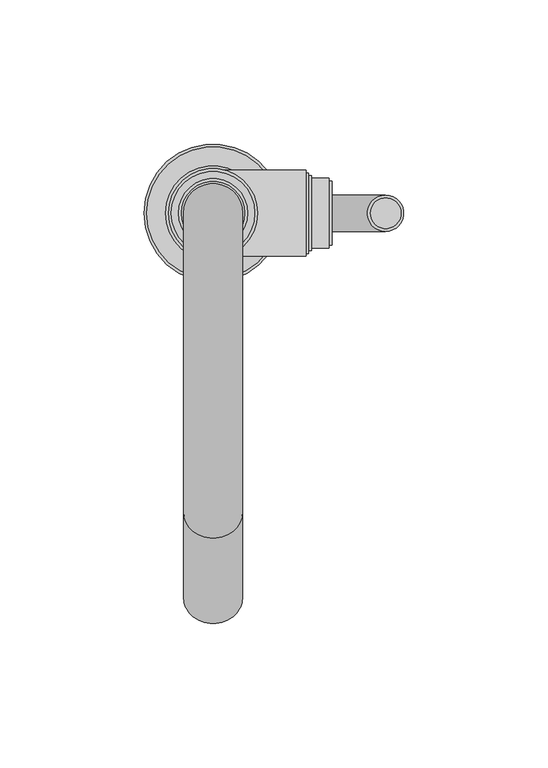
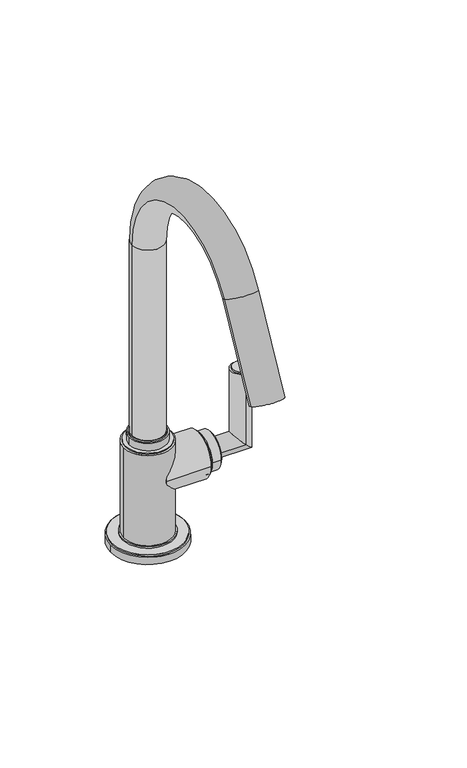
"""IFC4 building model written with IfcOpenShell, lengths in millimetres: flow terminal geometry, Deca_Torneira Lavatorio Izy Plus_1198.C24_Mesa Bica Alta : Torneira Cozinha."""

from ifc_helpers import new_model, si_unit, point, frame, frame_2d, origin, origin_with_axes, place, context, project, spatial, circle_curve, ellipse_curve, trimmed, segment, composite_curve, outline, extrude, source, transform, mapped, element, save
from ifc_brep_helpers import plane_surface, cylinder_surface, revolved_surface, advanced_brep


def flow_terminal_59b935d0(model_context):
    return source(origin(), model_context, "Body", "SolidModel", [
        extrude(outline(composite_curve([segment(trimmed(circle_curve(frame_2d((60.0, 0.015)), 5.315), [point((54.685, 0.015))], [point((65.315, 0.015))], False, "CARTESIAN"), True, "CONTINUOUS"), segment(trimmed(circle_curve(frame_2d((60.0, 0.015)), 5.315), [point((65.315, 0.015))], [point((54.685, 0.015))], False, "CARTESIAN"), True, "CONTINUOUS")], self_intersect=False)), frame((0.0, 0.0, 96.8062148), z_axis=(0.0, 0.0, 1.0), x_axis=(1.0, 0.0, 0.0)), (0.0, 0.0, 1.0), 1.0),
        advanced_brep(
        [(40.2882898, 6.31, 47.9144635), (40.2882898, -6.31, 47.9144635), (59.9272989, 6.31, 47.9144635), (59.9272989, -6.31, 47.9144635), (59.9272989, 6.31, 96.8234726), (59.9272989, -6.31, 96.8234726)],
        [
            (0, 1, circle_curve(frame((40.2882898, 0.0, 47.9144635), z_axis=(-1.0, 0.0, 0.0), x_axis=(0.0, -1.0, 0.0)), 6.31)),
            (1, 0, circle_curve(frame((40.2882898, 0.0, 47.9144635), z_axis=(-1.0, 0.0, 0.0), x_axis=(0.0, -1.0, 0.0)), 6.31)),
            (0, 2),
            (2, 3, ellipse_curve(frame((59.9272989, 0.0, 47.9144635), z_axis=(-0.7071067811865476, 0.0, -0.7071067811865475), x_axis=(-0.7071067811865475, 0.0, 0.7071067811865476)), 8.9236876, 6.31)),
            (3, 1),
            (3, 2, ellipse_curve(frame((59.9272989, 0.0, 47.9144635), z_axis=(-0.7071067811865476, 0.0, -0.7071067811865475), x_axis=(-0.7071067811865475, 0.0, 0.7071067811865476)), 8.9236876, 6.31)),
            (4, 5, circle_curve(frame((59.9272989, 0.0, 96.8234726), z_axis=(0.0, 0.0, 1.0), x_axis=(0.0, -1.0, 0.0)), 6.31)),
            (5, 4, circle_curve(frame((59.9272989, 0.0, 96.8234726), z_axis=(0.0, 0.0, 1.0), x_axis=(0.0, -1.0, 0.0)), 6.31)),
            (2, 4),
            (5, 3),
        ],
        [
            plane_surface(frame((40.2882898, 0.0, 41.5684726), z_axis=(-1.0, 0.0, 0.0), x_axis=(0.0, -1.0, 0.0))),
            cylinder_surface(frame((40.2882898, 0.0, 47.9144635), z_axis=(-1.0, 0.0, 0.0), x_axis=(0.0, -1.0, 0.0)), 6.31),
            plane_surface(frame((66.2732898, 0.0, 96.8234726), z_axis=(0.0, 0.0, 1.0), x_axis=(0.0, -1.0, 0.0))),
            cylinder_surface(frame((59.9272989, 0.0, 41.5684726), z_axis=(0.0, 0.0, -1.0), x_axis=(0.0, -1.0, 0.0)), 6.31),
        ],
        [
            (0, [[1, 2]]),
            (1, [[-1, 3, 4, 5]]),
            (1, [[-2, -5, 6, -3]]),
            (2, [[7, 8]]),
            (3, [[-4, 9, -8, 10]]),
            (3, [[-6, -10, -7, -9]]),
        ],
    ),
        extrude(outline(composite_curve([segment(trimmed(circle_curve(frame_2d((0.0, 47.875401)), 12.13), [point((-12.13, 47.875401))], [point((12.13, 47.875401))], False, "CARTESIAN"), True, "CONTINUOUS"), segment(trimmed(circle_curve(frame_2d((0.0, 47.875401)), 12.13), [point((12.13, 47.875401))], [point((-12.13, 47.875401))], False, "CARTESIAN"), True, "CONTINUOUS")], self_intersect=False)), frame((32.2082898, 0.0, 0.0), z_axis=(1.0, 0.0, 0.0), x_axis=(0.0, 1.0, 0.0)), (0.0, 0.0, 1.0), 8.08),
        extrude(outline(composite_curve([segment(trimmed(circle_curve(frame_2d((0.0, 47.875401)), 14.9), [point((-14.9, 47.875401))], [point((14.9, 47.875401))], False, "CARTESIAN"), True, "CONTINUOUS"), segment(trimmed(circle_curve(frame_2d((0.0, 47.875401)), 14.9), [point((14.9, 47.875401))], [point((-14.9, 47.875401))], False, "CARTESIAN"), True, "CONTINUOUS")], self_intersect=False)), frame((3.2524235, 0.0, 0.0), z_axis=(1.0, 0.0, 0.0), x_axis=(0.0, 1.0, 0.0)), (0.0, 0.0, 1.0), 28.9558664),
        advanced_brep(
        [(-10.3, 0.015, 68.4648981), (10.3, 0.015, 68.4648981), (-10.3, 0.015, 205.2001719), (10.3, 0.015, 205.2001719), (10.3, -103.7545698, 231.1620339), (-10.3, -103.7545698, 231.1620339), (-10.3, -133.4040596, 175.6164919), (10.3, -133.4040596, 175.6164919)],
        [
            (0, 1, circle_curve(frame((0.0, 0.015, 68.4648981), z_axis=(0.0, 0.0, -1.0), x_axis=(1.0, 0.0, 0.0)), 10.3)),
            (1, 0, circle_curve(frame((0.0, 0.015, 68.4648981), z_axis=(0.0, 0.0, -1.0), x_axis=(1.0, 0.0, 0.0)), 10.3)),
            (0, 2),
            (2, 3, circle_curve(frame((0.0, 0.015, 205.2001719), z_axis=(0.0, 0.0, -1.0), x_axis=(1.0, 0.0, 0.0)), 10.3)),
            (3, 1),
            (3, 2, circle_curve(frame((0.0, 0.015, 205.2001719), z_axis=(0.0, 0.0, -1.0), x_axis=(1.0, 0.0, 0.0)), 10.3)),
            (4, 3, circle_curve(frame((10.3, -55.1174532, 205.2001719), z_axis=(-1.0, 0.0, 0.0), x_axis=(0.0, 1.0, 0.0)), 55.1324532)),
            (2, 5, circle_curve(frame((-10.3, -55.1174532, 205.2001719), z_axis=(1.0, 0.0, 0.0), x_axis=(0.0, 1.0, 0.0)), 55.1324532)),
            (5, 4, circle_curve(frame((0.0, -103.7545698, 231.1620339), z_axis=(0.0, 0.4708998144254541, 0.8821866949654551), x_axis=(1.0, 0.0, 0.0)), 10.3)),
            (4, 5, circle_curve(frame((0.0, -103.7545698, 231.1620339), z_axis=(0.0, 0.4708998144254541, 0.8821866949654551), x_axis=(1.0, 0.0, 0.0)), 10.3)),
            (6, 7, circle_curve(frame((0.0, -133.4040596, 175.6164919), z_axis=(0.0, -0.4708998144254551, -0.8821866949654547), x_axis=(1.0, 0.0, 0.0)), 10.3)),
            (7, 6, circle_curve(frame((0.0, -133.4040596, 175.6164919), z_axis=(0.0, -0.4708998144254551, -0.8821866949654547), x_axis=(1.0, 0.0, 0.0)), 10.3)),
            (5, 6),
            (7, 4),
        ],
        [
            plane_surface(frame((0.0, 10.3425468, 68.4648981), z_axis=(0.0, 0.0, -1.0), x_axis=(1.0, 0.0, 0.0))),
            cylinder_surface(frame((0.0, 0.015, 68.4648981), z_axis=(0.0, 0.0, -1.0), x_axis=(1.0, 0.0, 0.0)), 10.3),
            revolved_surface(trimmed(ellipse_curve(frame((0.0, 0.015, 205.2001719), z_axis=(0.0, 0.0, -1.0), x_axis=(1.0, 0.0, 0.0)), 10.3, 10.3), [point((-10.3, 0.015, 205.2001719))], [point((10.3, 0.015, 205.2001719))], True, "CARTESIAN"), (0.0, -55.1174532, 205.2001719), (1.0, 0.0, 0.0)),
            revolved_surface(trimmed(ellipse_curve(frame((0.0, 0.015, 205.2001719), z_axis=(0.0, 0.0, -1.0), x_axis=(1.0, 0.0, 0.0)), 10.3, 10.3), [point((10.3, 0.015, 205.2001719))], [point((-10.3, 0.015, 205.2001719))], True, "CARTESIAN"), (0.0, -55.1174532, 205.2001719), (1.0, 0.0, 0.0)),
            plane_surface(frame((0.0, -142.514884, 180.4797318), z_axis=(0.0, -0.4708998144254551, -0.8821866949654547), x_axis=(1.0, 0.0, 0.0))),
            cylinder_surface(frame((0.0, -103.7545698, 231.1620339), z_axis=(0.0, 0.4708998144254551, 0.8821866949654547), x_axis=(1.0, 0.0, 0.0)), 10.3),
        ],
        [
            (0, [[1, 2]]),
            (1, [[-1, 3, 4, 5]]),
            (1, [[-2, -5, 6, -3]]),
            (2, [[7, -4, 8, 9]]),
            (3, [[-8, -6, -7, 10]]),
            (4, [[11, 12]]),
            (5, [[-9, 13, -12, 14]]),
            (5, [[-10, -14, -11, -13]]),
        ],
    ),
        extrude(outline(composite_curve([segment(trimmed(circle_curve(frame_2d((0.0, 0.015)), 15.5), [point((-15.5, 0.015))], [point((15.5, 0.015))], False, "CARTESIAN"), True, "CONTINUOUS"), segment(trimmed(circle_curve(frame_2d((0.0, 0.015)), 15.5), [point((15.5, 0.015))], [point((-15.5, 0.015))], False, "CARTESIAN"), True, "CONTINUOUS")], self_intersect=False)), frame((0.0, 0.0, 7.0), z_axis=(0.0, 0.0, 1.0), x_axis=(1.0, 0.0, 0.0)), (0.0, 0.0, 1.0), 61.4648981),
        extrude(outline(composite_curve([segment(trimmed(circle_curve(frame_2d((0.0, 0.015)), 16.5), [point((-16.5, 0.015))], [point((16.5, 0.015))], False, "CARTESIAN"), True, "CONTINUOUS"), segment(trimmed(circle_curve(frame_2d((0.0, 0.015)), 16.5), [point((16.5, 0.015))], [point((-16.5, 0.015))], False, "CARTESIAN"), True, "CONTINUOUS")], self_intersect=False)), frame((0.0, 0.0, 6.0), z_axis=(0.0, 0.0, 1.0), x_axis=(1.0, 0.0, 0.0)), (0.0, 0.0, 1.0), 1.0),
        extrude(outline(composite_curve([segment(trimmed(circle_curve(frame_2d((0.0, 0.015)), 23.0), [point((-23.0, 0.015))], [point((23.0, 0.015))], False, "CARTESIAN"), True, "CONTINUOUS"), segment(trimmed(circle_curve(frame_2d((0.0, 0.015)), 23.0), [point((23.0, 0.015))], [point((-23.0, 0.015))], False, "CARTESIAN"), True, "CONTINUOUS")], self_intersect=False)), frame((0.0, 0.0, 5.0), z_axis=(0.0, 0.0, 1.0), x_axis=(1.0, 0.0, 0.0)), (0.0, 0.0, 1.0), 1.0),
        extrude(outline(composite_curve([segment(trimmed(circle_curve(frame_2d((0.0, 0.015)), 24.0), [point((-24.0, 0.015))], [point((24.0, 0.015))], False, "CARTESIAN"), True, "CONTINUOUS"), segment(trimmed(circle_curve(frame_2d((0.0, 0.015)), 24.0), [point((24.0, 0.015))], [point((-24.0, 0.015))], False, "CARTESIAN"), True, "CONTINUOUS")], self_intersect=False)), origin_with_axes(), (0.0, 0.0, 1.0), 5.0),
        extrude(outline(composite_curve([segment(trimmed(circle_curve(frame_2d((0.0, 47.9144635)), 11.1), [point((-11.1, 47.9144635))], [point((11.1, 47.9144635))], False, "CARTESIAN"), True, "CONTINUOUS"), segment(trimmed(circle_curve(frame_2d((0.0, 47.9144635)), 11.1), [point((11.1, 47.9144635))], [point((-11.1, 47.9144635))], False, "CARTESIAN"), True, "CONTINUOUS")], self_intersect=False)), frame((40.2882898, 0.0, 0.0), z_axis=(1.0, 0.0, 0.0), x_axis=(0.0, 1.0, 0.0)), (0.0, 0.0, 1.0), 1.0),
        extrude(outline(composite_curve([segment(trimmed(circle_curve(frame_2d((0.0, 47.797276)), 13.0), [point((-13.0, 47.797276))], [point((13.0, 47.797276))], False, "CARTESIAN"), True, "CONTINUOUS"), segment(trimmed(circle_curve(frame_2d((0.0, 47.797276)), 13.0), [point((13.0, 47.797276))], [point((-13.0, 47.797276))], False, "CARTESIAN"), True, "CONTINUOUS")], self_intersect=False)), frame((33.2082898, 0.0, 0.0), z_axis=(1.0, 0.0, 0.0), x_axis=(0.0, 1.0, 0.0)), (0.0, 0.0, 1.0), 1.0),
        extrude(outline(composite_curve([segment(trimmed(circle_curve(frame_2d((0.0, 47.797276)), 14.0), [point((-14.0, 47.797276))], [point((14.0, 47.797276))], False, "CARTESIAN"), True, "CONTINUOUS"), segment(trimmed(circle_curve(frame_2d((0.0, 47.797276)), 14.0), [point((14.0, 47.797276))], [point((-14.0, 47.797276))], False, "CARTESIAN"), True, "CONTINUOUS")], self_intersect=False)), frame((32.2082898, 0.0, 0.0), z_axis=(1.0, 0.0, 0.0), x_axis=(0.0, 1.0, 0.0)), (0.0, 0.0, 1.0), 1.0),
        extrude(outline(composite_curve([segment(trimmed(circle_curve(frame_2d((0.0, 0.015)), 11.0), [point((-11.0, 0.015))], [point((11.0, 0.015))], False, "CARTESIAN"), True, "CONTINUOUS"), segment(trimmed(circle_curve(frame_2d((0.0, 0.015)), 11.0), [point((11.0, 0.015))], [point((-11.0, 0.015))], False, "CARTESIAN"), True, "CONTINUOUS")], self_intersect=False)), frame((0.0, 0.0, 74.4648981), z_axis=(0.0, 0.0, 1.0), x_axis=(1.0, 0.0, 0.0)), (0.0, 0.0, 1.0), 1.0),
        extrude(outline(composite_curve([segment(trimmed(circle_curve(frame_2d((0.0, 0.015)), 12.0), [point((-12.0, 0.015))], [point((12.0, 0.015))], False, "CARTESIAN"), True, "CONTINUOUS"), segment(trimmed(circle_curve(frame_2d((0.0, 0.015)), 12.0), [point((12.0, 0.015))], [point((-12.0, 0.015))], False, "CARTESIAN"), True, "CONTINUOUS")], self_intersect=False)), frame((0.0, 0.0, 69.4648981), z_axis=(0.0, 0.0, 1.0), x_axis=(1.0, 0.0, 0.0)), (0.0, 0.0, 1.0), 5.0),
        extrude(outline(composite_curve([segment(trimmed(circle_curve(frame_2d((0.0, 0.015)), 14.5), [point((-14.5, 0.015))], [point((14.5, 0.015))], False, "CARTESIAN"), True, "CONTINUOUS"), segment(trimmed(circle_curve(frame_2d((0.0, 0.015)), 14.5), [point((14.5, 0.015))], [point((-14.5, 0.015))], False, "CARTESIAN"), True, "CONTINUOUS")], self_intersect=False)), frame((0.0, 0.0, 68.4648981), z_axis=(0.0, 0.0, 1.0), x_axis=(1.0, 0.0, 0.0)), (0.0, 0.0, 1.0), 1.0),
    ])


if __name__ == "__main__":
    model = new_model("IFC4")
    model_context = context("Model", 3, world=origin())
    ifc_project = project(units=[si_unit("LENGTHUNIT", "METRE", prefix="MILLI")], contexts=[model_context])
    site = spatial("IfcSite", under=ifc_project)
    building = spatial("IfcBuilding", under=site)
    placement = place(None, origin())
    flow_terminal_shape = flow_terminal_59b935d0(model_context)
    element("IfcFlowTerminal", 1, ObjectType="Deca_Torneira Lavatorio Izy Plus_1198.C24_Mesa Bica Alta : Torneira Cozinha", at=placement, inside=building, context=model_context, shape_type="MappedRepresentation", body=[
        mapped(flow_terminal_shape, transform((0.0, 0.0, 0.0), x_axis=(1.0, 0.0, 0.0), y_axis=(0.0, 1.0, 0.0), z_axis=(0.0, 0.0, 1.0))),
    ])
    save(model, "model.ifc")
